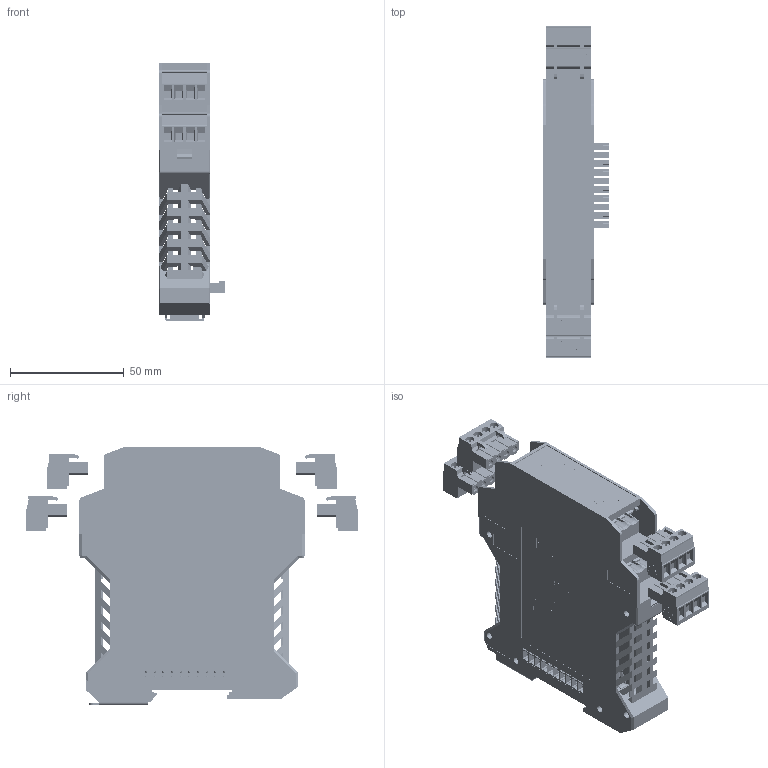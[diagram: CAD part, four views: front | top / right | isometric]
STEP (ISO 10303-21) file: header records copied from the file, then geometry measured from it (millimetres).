
FILE_DESCRIPTION(('STEP AP203'), '1');
FILE_NAME('鍛鍧 BRT-4_', '', ('UNSPECIFIED'), ('UNSPECIFIED'), 'ASCON STEP Converter 1.3', 'ASCON Math Kernel', '');
FILE_SCHEMA(('CONFIG_CONTROL_DESIGN'));
Length unit declared in the file: millimetre
Products named in the file (16): ME_22.5_UTR_H_BUS_10_H.Select__00496319; ME_Verriegelungshaken_H.Select__00446697; ME_22.5_UTL_H_BUS_10_H.Select__00496310; ME_BUS_22.5_MC_10-ST_H.Select__00493208; ME_BUS_FE-CONTACT_H.Select__00437355; Fussriegel_17.5_L30_H.Select__00315466; ME_22_5_OT-MSTBO_H.Select__00273265; MSTBO_2_5_4-G1L_H.Select__00364411; MSTBO_2_5_4-G1R_H.Select__00364505; MSTBT_2.5-4-ST
Assembly tree (21 placements, depth 5):
  (unnamed)
    (unnamed)
      (unnamed)
        (unnamed)
          ME_22.5_UTR_H_BUS_10_H.Select__00496319
          ME_Verriegelungshaken_H.Select__00446697  x2
          ME_22.5_UTL_H_BUS_10_H.Select__00496310
          ME_BUS_22.5_MC_10-ST_H.Select__00493208
          ME_BUS_FE-CONTACT_H.Select__00437355
          Fussriegel_17.5_L30_H.Select__00315466
      (unnamed)
        ME_22_5_OT-MSTBO_H.Select__00273265
        MSTBO_2_5_4-G1L_H.Select__00364411  x2
        MSTBO_2_5_4-G1R_H.Select__00364505  x2
    MSTBT_2.5-4-ST  x4
      MSTBT_2.5-4-ST
Bounding box: 29.1 x 145.9 x 113.6 mm (x, y, z)
Volume: 76885.9 mm3; surface area: 99697 mm2
Topology: 19 solids, 21 shells, 15508 faces, 43432 edges, 28797 vertices
Faces by surface type: plane 9872, cylinder 5254, extrusion 352, cone 30
Full cylindrical faces by diameter (mm): 0.813 x3, 0.853 x3, 1.353 x16, 1.4 x32, 1.6 x20, 2 x6, 2.1 x3, 2.8 x32, 3 x12, 3.783 x16, 4 x16
Entity records: 520879 total; most frequent: CARTESIAN_POINT 77417, ORIENTED_EDGE 72040, DIRECTION 70591, EDGE_CURVE 36020, VECTOR 25899, LINE 25658, VERTEX_POINT 23975, AXIS2_PLACEMENT_3D 22346
